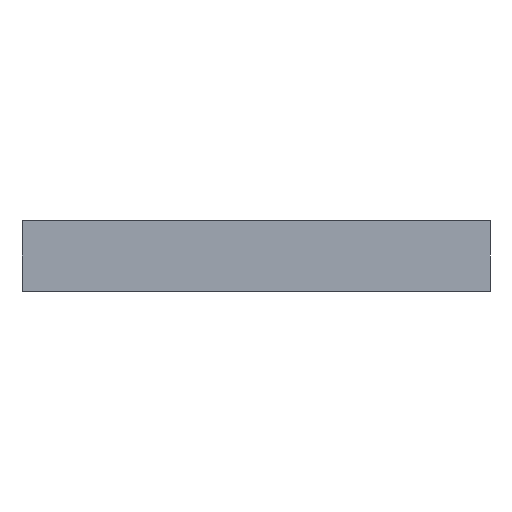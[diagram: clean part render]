
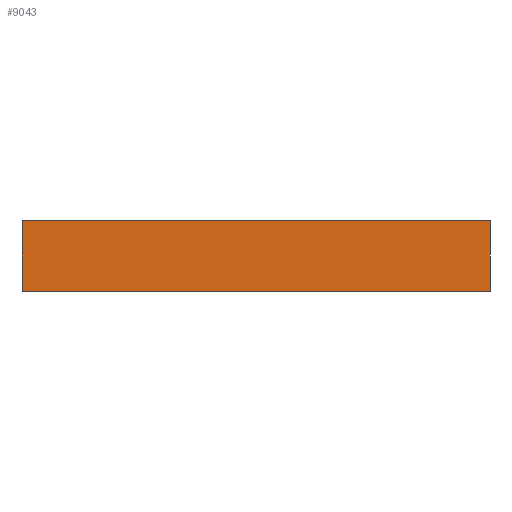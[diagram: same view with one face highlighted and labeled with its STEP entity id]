
A CAD part, front view. The second image highlights one B-rep face of the part: STEP entity #9043.
In plain terms, the highlighted planar face has unit normal (0, -1, 0).
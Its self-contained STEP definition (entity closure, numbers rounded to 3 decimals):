
#1249 = DIRECTION ( 'NONE',  ( 0., 0., 1. ) ) ;
#1419 = CARTESIAN_POINT ( 'NONE',  ( -100., -185., 0. ) ) ;
#1575 = CARTESIAN_POINT ( 'NONE',  ( 100., -185., 0. ) ) ;
#1957 = VERTEX_POINT ( 'NONE', #1575 ) ;
#2137 = CARTESIAN_POINT ( 'NONE',  ( -100., -185., -30. ) ) ;
#3244 = PLANE ( 'NONE',  #11818 ) ;
#3329 = VERTEX_POINT ( 'NONE', #11190 ) ;
#3399 = LINE ( 'NONE', #2137, #10211 ) ;
#4315 = ORIENTED_EDGE ( 'NONE', *, *, #10614, .F. ) ;
#4327 = FACE_OUTER_BOUND ( 'NONE', #8772, .T. ) ;
#4896 = VERTEX_POINT ( 'NONE', #11214 ) ;
#4929 = ORIENTED_EDGE ( 'NONE', *, *, #8404, .T. ) ;
#5109 = DIRECTION ( 'NONE',  ( 0., -1., 0. ) ) ;
#5467 = ORIENTED_EDGE ( 'NONE', *, *, #8763, .T. ) ;
#5857 = DIRECTION ( 'NONE',  ( 1., 0., 0. ) ) ;
#6075 = VECTOR ( 'NONE', #11983, 1000. ) ;
#6289 = EDGE_CURVE ( 'NONE', #4896, #1957, #7398, .T. ) ;
#6839 = CARTESIAN_POINT ( 'NONE',  ( 100., -185., -30. ) ) ;
#7225 = ORIENTED_EDGE ( 'NONE', *, *, #6289, .F. ) ;
#7398 = LINE ( 'NONE', #1419, #10123 ) ;
#7401 = CARTESIAN_POINT ( 'NONE',  ( -100., -185., -30. ) ) ;
#7405 = VECTOR ( 'NONE', #1249, 1000. ) ;
#7900 = DIRECTION ( 'NONE',  ( 1., 0., 0. ) ) ;
#8404 = EDGE_CURVE ( 'NONE', #3329, #9774, #3399, .T. ) ;
#8763 = EDGE_CURVE ( 'NONE', #9774, #1957, #9839, .T. ) ;
#8772 = EDGE_LOOP ( 'NONE', ( #7225, #4315, #4929, #5467 ) ) ;
#9043 = ADVANCED_FACE ( 'NONE', ( #4327 ), #3244, .T. ) ;
#9727 = CARTESIAN_POINT ( 'NONE',  ( -100., -185., -30. ) ) ;
#9774 = VERTEX_POINT ( 'NONE', #10861 ) ;
#9839 = LINE ( 'NONE', #6839, #7405 ) ;
#10123 = VECTOR ( 'NONE', #7900, 1000. ) ;
#10211 = VECTOR ( 'NONE', #5857, 1000. ) ;
#10614 = EDGE_CURVE ( 'NONE', #3329, #4896, #10983, .T. ) ;
#10861 = CARTESIAN_POINT ( 'NONE',  ( 100., -185., -30. ) ) ;
#10983 = LINE ( 'NONE', #7401, #6075 ) ;
#11190 = CARTESIAN_POINT ( 'NONE',  ( -100., -185., -30. ) ) ;
#11214 = CARTESIAN_POINT ( 'NONE',  ( -100., -185., 0. ) ) ;
#11593 = DIRECTION ( 'NONE',  ( 1., 0., 0. ) ) ;
#11818 = AXIS2_PLACEMENT_3D ( 'NONE', #9727, #5109, #11593 ) ;
#11983 = DIRECTION ( 'NONE',  ( 0., 0., 1. ) ) ;
